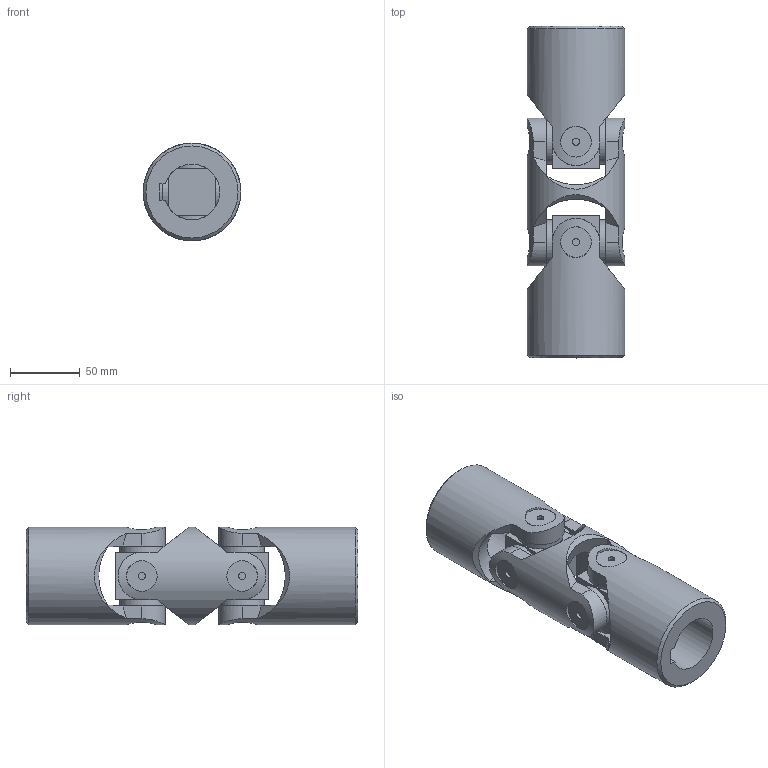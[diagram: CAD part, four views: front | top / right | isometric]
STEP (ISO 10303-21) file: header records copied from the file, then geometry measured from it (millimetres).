
FILE_DESCRIPTION(/* description */ (''),/* implementation_level */ '2;1');
FILE_NAME(/* name */ '\\SRV2016\Societa\Stefano\Disegni 3D\00Catalogo 3D\02Doppi GD-GBD\SGBD401C.stp',/* time_stamp */ '2021-11-23T15:59:36+01:00',/* author */ ('acquisti'),/* organization */ (''),/* preprocessor_version */ 'ST-DEVELOPER v15.6',/* originating_system */ 'Autodesk Inventor 2015',/* authorisation */ '');
FILE_SCHEMA (('CONFIG_CONTROL_DESIGN','AUTOMOTIVE_DESIGN { 1 0 10303 214 3 1 1 }'));
Length unit declared in the file: millimetre
Products named in the file (5): 7G MOD; 7G SFE; 8GB MOC; 8GB MOS; Ø70_8GBD-00_SGBD4000
Assembly tree (5 placements, depth 2):
  Ø70_8GBD-00_SGBD4000
    7G MOD
    7G SFE  x2
    8GB MOC
    8GB MOS
Bounding box: 70 x 238 x 70 mm (x, y, z)
Volume: 569950.1 mm3; surface area: 106504.6 mm2
Topology: 5 solids, 5 shells, 133 faces, 320 edges, 217 vertices
Faces by surface type: plane 73, cylinder 38, cone 18, torus 4
Full cylindrical faces by diameter (mm): 5 x8, 22 x8, 32 x8, 40 x2, 70 x3
Entity records: 4408 total; most frequent: CARTESIAN_POINT 1722, ORIENTED_EDGE 528, DIRECTION 501, EDGE_CURVE 264, AXIS2_PLACEMENT_3D 217, VERTEX_POINT 200, EDGE_LOOP 172, FACE_OUTER_BOUND 119
